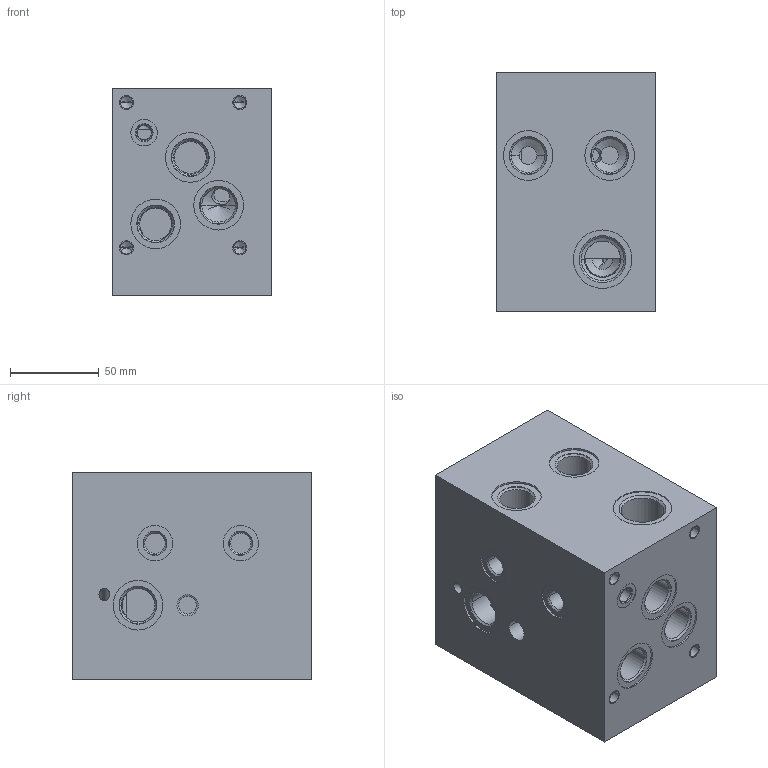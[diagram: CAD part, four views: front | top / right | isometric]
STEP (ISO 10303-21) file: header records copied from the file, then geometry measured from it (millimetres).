
FILE_DESCRIPTION((''),'2;1');
FILE_NAME('30151001','2023-11-15T',('l.soukupova'),(''),'PRO/ENGINEER BY PARAMETRIC TECHNOLOGY CORPORATION, 2015440','PRO/ENGINEER BY PARAMETRIC TECHNOLOGY CORPORATION, 2015440','');
FILE_SCHEMA(('AUTOMOTIVE_DESIGN { 1 0 10303 214 1 1 1 1 }'));
Length unit declared in the file: millimetre
Products named in the file (1): 30151001
Bounding box: 90 x 135 x 117 mm (x, y, z)
Volume: 1271046.1 mm3; surface area: 131936.4 mm2
Topology: 1 solids, 29 shells, 372 faces, 1227 edges, 1007 vertices
Faces by surface type: cylinder 196, cone 100, plane 76
Entity records: 19203 total; most frequent: CARTESIAN_POINT 4431, DIRECTION 2390, ORIENTED_EDGE 1734, PRESENTATION_STYLE_ASSIGNMENT 1308, STYLED_ITEM 1302, CURVE_STYLE 1274, EDGE_CURVE 923, AXIS2_PLACEMENT_3D 901
